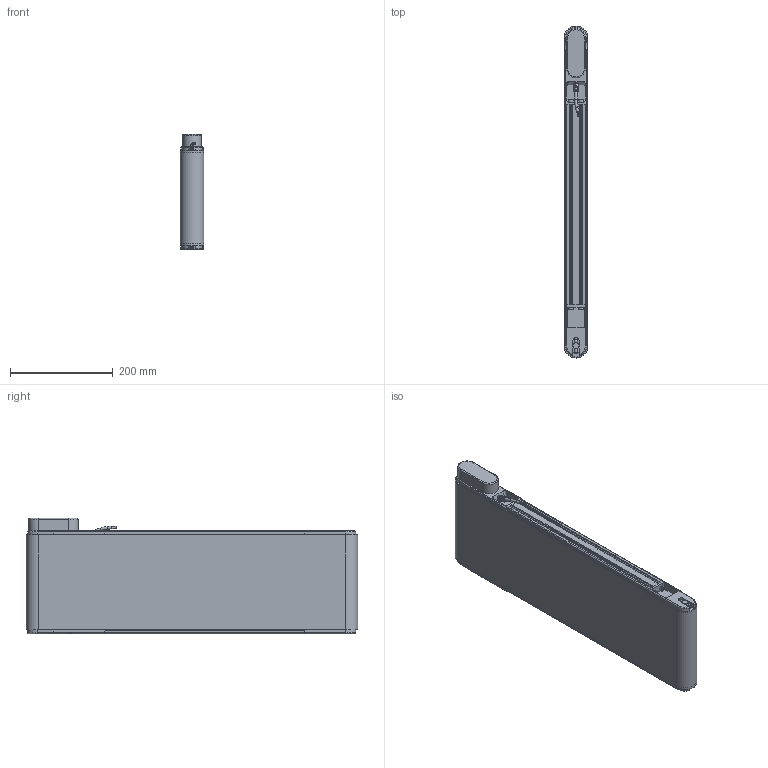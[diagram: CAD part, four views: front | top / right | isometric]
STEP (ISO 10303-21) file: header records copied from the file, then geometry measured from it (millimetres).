
FILE_DESCRIPTION(/* description */ (''),/* implementation_level */ '2;1');
FILE_NAME(/* name */ 'G:\DATEN\CAD\Förderband\Marketing\3D-Modelle (Standard)\FR-40-200-Q\FR-40-200-Q-600-K.stp',/* time_stamp */ '2019-05-09T09:49:05+02:00',/* author */ ('melanie.ochs'),/* organization */ (''),/* preprocessor_version */ 'ST-DEVELOPER v17',/* originating_system */ 'Autodesk Inventor 2019',/* authorisation */ '');
FILE_SCHEMA (('CONFIG_CONTROL_DESIGN'));
Length unit declared in the file: centimetre
Products named in the file (1): FR-40-200-Q-600-K
Bounding box: 46.6 x 646.6 x 224.5 mm (x, y, z)
Volume: 2637730.9 mm3; surface area: 800849.3 mm2
Topology: 6 solids, 25 shells, 924 faces, 2504 edges, 1671 vertices
Faces by surface type: plane 473, cylinder 291, cone 70, bspline 61, torus 29
Full cylindrical faces by diameter (mm): 1 x6, 3 x1, 4 x12, 4.3 x4, 4.917 x3, 5 x11, 5.5 x8, 6 x4, 6.5 x1, 6.773 x1, 6.917 x3, 8 x4, 8.3 x4, 8.5 x8, 8.773 x1, 10 x2, 11 x1, 12 x6, 25 x2, 28 x2, 28.01 x2, 30 x1
Entity records: 31084 total; most frequent: CARTESIAN_POINT 6835, ORIENTED_EDGE 4964, DIRECTION 4769, EDGE_CURVE 2482, AXIS2_PLACEMENT_3D 1714, VERTEX_POINT 1670, LINE 1341, VECTOR 1341
